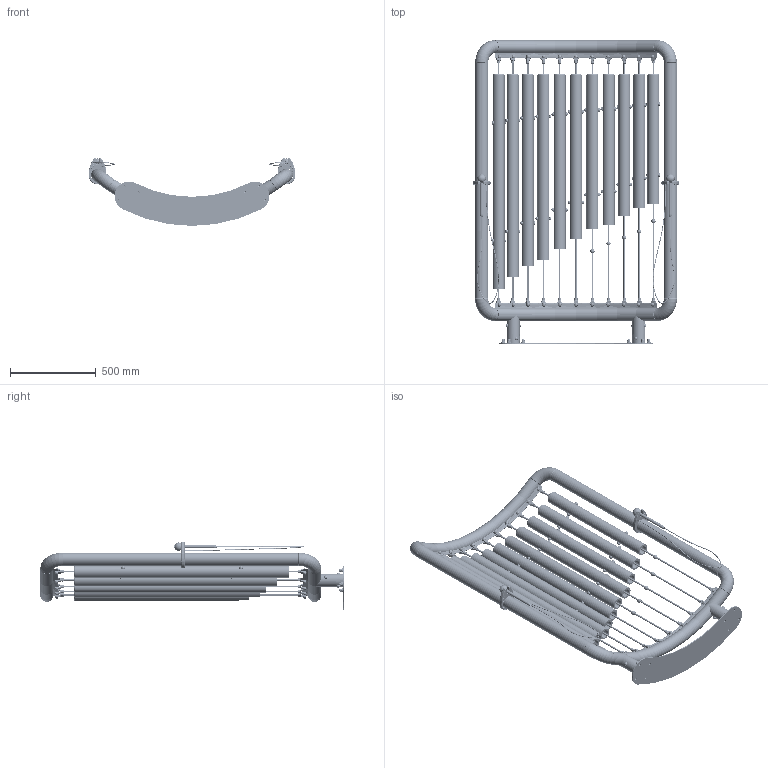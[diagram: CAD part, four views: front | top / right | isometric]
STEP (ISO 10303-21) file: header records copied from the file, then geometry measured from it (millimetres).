
FILE_DESCRIPTION (( 'STEP AP214' ), '1' );
FILE_NAME ('560.041.011.001 - Tubular Bells ''Sonnie'' with FLAT anchor.STEP', '2021-03-09T09:27:24', ( '' ), ( '' ), 'SwSTEP 2.0', 'SolidWorks 2018', '' );
FILE_SCHEMA (( 'AUTOMOTIVE_DESIGN' ));
Length unit declared in the file: millimetre
Products named in the file (1): 560.041.011.001 - Tubular Bells ''Sonnie'' with FLAT anchor
Bounding box: 1208.2 x 1774.05 x 396.13 mm (x, y, z)
Volume: 65536218.8 mm3; surface area: 6071394.9 mm2
Topology: 342 solids, 347 shells, 8980 faces, 21693 edges, 13619 vertices
Faces by surface type: cylinder 2800, plane 2154, bspline 1624, torus 1192, cone 1020, sphere 190
Entity records: 429105 total; most frequent: CARTESIAN_POINT 124572, DIRECTION 43122, ORIENTED_EDGE 42388, EDGE_CURVE 21194, AXIS2_PLACEMENT_3D 18653, VERTEX_POINT 13406, CIRCLE 11296, EDGE_LOOP 10114
